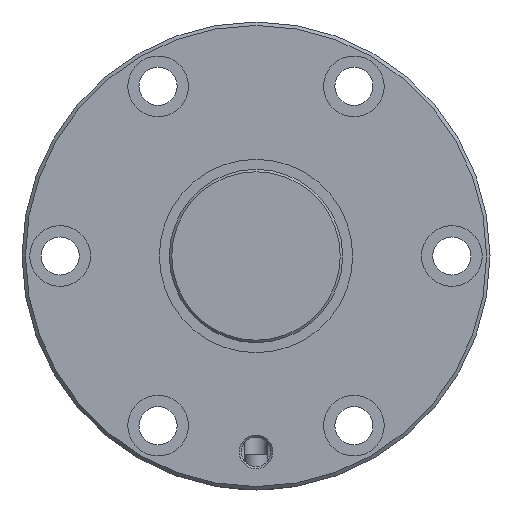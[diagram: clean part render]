
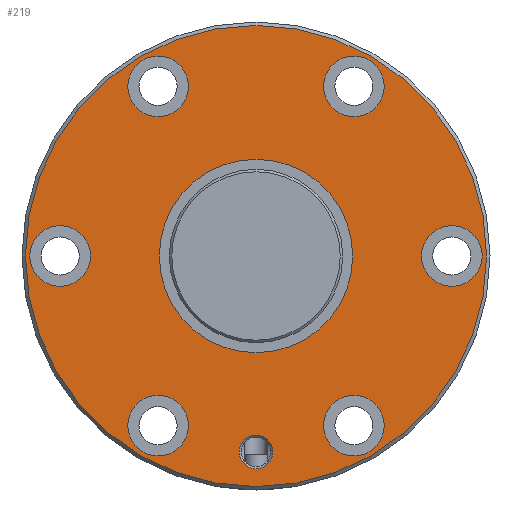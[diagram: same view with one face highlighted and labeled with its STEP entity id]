
A CAD part, left-side view. The second image highlights one B-rep face of the part: STEP entity #219.
In plain terms, the highlighted planar face has unit normal (-1, 0, 0).
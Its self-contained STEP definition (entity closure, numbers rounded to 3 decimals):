
#219 = ADVANCED_FACE( '', ( #390, #391, #392, #393, #394, #395, #396, #397, #398 ), #399, .T. );
#390 = FACE_BOUND( '', #629, .T. );
#391 = FACE_BOUND( '', #630, .T. );
#392 = FACE_BOUND( '', #631, .T. );
#393 = FACE_BOUND( '', #632, .T. );
#394 = FACE_BOUND( '', #633, .T. );
#395 = FACE_BOUND( '', #634, .T. );
#396 = FACE_BOUND( '', #635, .T. );
#397 = FACE_BOUND( '', #636, .T. );
#398 = FACE_OUTER_BOUND( '', #637, .T. );
#399 = PLANE( '', #638 );
#629 = EDGE_LOOP( '', ( #1059 ) );
#630 = EDGE_LOOP( '', ( #1060 ) );
#631 = EDGE_LOOP( '', ( #1061 ) );
#632 = EDGE_LOOP( '', ( #1062 ) );
#633 = EDGE_LOOP( '', ( #1063 ) );
#634 = EDGE_LOOP( '', ( #1064 ) );
#635 = EDGE_LOOP( '', ( #1065 ) );
#636 = EDGE_LOOP( '', ( #1066 ) );
#637 = EDGE_LOOP( '', ( #1067 ) );
#638 = AXIS2_PLACEMENT_3D( '', #1068, #1069, #1070 );
#1059 = ORIENTED_EDGE( '', *, *, #1342, .T. );
#1060 = ORIENTED_EDGE( '', *, *, #1343, .T. );
#1061 = ORIENTED_EDGE( '', *, *, #1265, .T. );
#1062 = ORIENTED_EDGE( '', *, *, #1341, .T. );
#1063 = ORIENTED_EDGE( '', *, *, #1344, .T. );
#1064 = ORIENTED_EDGE( '', *, *, #1345, .T. );
#1065 = ORIENTED_EDGE( '', *, *, #1346, .T. );
#1066 = ORIENTED_EDGE( '', *, *, #1347, .T. );
#1067 = ORIENTED_EDGE( '', *, *, #1348, .F. );
#1068 = CARTESIAN_POINT( '', ( 0., 66.5, 0. ) );
#1069 = DIRECTION( '', ( -1., 0., 0. ) );
#1070 = DIRECTION( '', ( 0., 0., 1. ) );
#1265 = EDGE_CURVE( '', #1419, #1419, #1420, .T. );
#1341 = EDGE_CURVE( '', #1549, #1549, #1550, .T. );
#1342 = EDGE_CURVE( '', #1551, #1551, #1552, .T. );
#1343 = EDGE_CURVE( '', #1553, #1553, #1554, .F. );
#1344 = EDGE_CURVE( '', #1555, #1555, #1556, .T. );
#1345 = EDGE_CURVE( '', #1557, #1557, #1558, .T. );
#1346 = EDGE_CURVE( '', #1559, #1559, #1560, .T. );
#1347 = EDGE_CURVE( '', #1561, #1561, #1562, .T. );
#1348 = EDGE_CURVE( '', #1563, #1563, #1564, .T. );
#1419 = VERTEX_POINT( '', #1804 );
#1420 = CIRCLE( '', #1805, 4.864 );
#1549 = VERTEX_POINT( '', #2218 );
#1550 = CIRCLE( '', #2219, 8.75 );
#1551 = VERTEX_POINT( '', #2220 );
#1552 = CIRCLE( '', #2221, 27.9 );
#1553 = VERTEX_POINT( '', #2222 );
#1554 = CIRCLE( '', #2223, 8.75 );
#1555 = VERTEX_POINT( '', #2224 );
#1556 = CIRCLE( '', #2225, 8.75 );
#1557 = VERTEX_POINT( '', #2226 );
#1558 = CIRCLE( '', #2227, 8.75 );
#1559 = VERTEX_POINT( '', #2228 );
#1560 = CIRCLE( '', #2229, 8.75 );
#1561 = VERTEX_POINT( '', #2230 );
#1562 = CIRCLE( '', #2231, 8.75 );
#1563 = VERTEX_POINT( '', #2232 );
#1564 = CIRCLE( '', #2233, 66.5 );
#1804 = CARTESIAN_POINT( '', ( 0., 0., -61.364 ) );
#1805 = AXIS2_PLACEMENT_3D( '', #2395, #2396, #2397 );
#2218 = CARTESIAN_POINT( '', ( 0., 28.25, 40.18 ) );
#2219 = AXIS2_PLACEMENT_3D( '', #2547, #2548, #2549 );
#2220 = CARTESIAN_POINT( '', ( 0., 0., -27.9 ) );
#2221 = AXIS2_PLACEMENT_3D( '', #2550, #2551, #2552 );
#2222 = CARTESIAN_POINT( '', ( 0., 56.5, 8.75 ) );
#2223 = AXIS2_PLACEMENT_3D( '', #2553, #2554, #2555 );
#2224 = CARTESIAN_POINT( '', ( 0., -28.25, -57.68 ) );
#2225 = AXIS2_PLACEMENT_3D( '', #2556, #2557, #2558 );
#2226 = CARTESIAN_POINT( '', ( 0., -28.25, 40.18 ) );
#2227 = AXIS2_PLACEMENT_3D( '', #2559, #2560, #2561 );
#2228 = CARTESIAN_POINT( '', ( 0., 28.25, -57.68 ) );
#2229 = AXIS2_PLACEMENT_3D( '', #2562, #2563, #2564 );
#2230 = CARTESIAN_POINT( '', ( 0., -56.5, -8.75 ) );
#2231 = AXIS2_PLACEMENT_3D( '', #2565, #2566, #2567 );
#2232 = CARTESIAN_POINT( '', ( 0., 0., -66.5 ) );
#2233 = AXIS2_PLACEMENT_3D( '', #2568, #2569, #2570 );
#2395 = CARTESIAN_POINT( '', ( 0., 0., -56.5 ) );
#2396 = DIRECTION( '', ( 1., 0., 0. ) );
#2397 = DIRECTION( '', ( 0., 0., -1. ) );
#2547 = CARTESIAN_POINT( '', ( 0., 28.25, 48.93 ) );
#2548 = DIRECTION( '', ( 1., 0., 0. ) );
#2549 = DIRECTION( '', ( 0., 0., -1. ) );
#2550 = CARTESIAN_POINT( '', ( 0., 0., 0. ) );
#2551 = DIRECTION( '', ( 1., 0., 0. ) );
#2552 = DIRECTION( '', ( 0., 0., -1. ) );
#2553 = CARTESIAN_POINT( '', ( 0., 56.5, 0. ) );
#2554 = DIRECTION( '', ( -1., 0., 0. ) );
#2555 = DIRECTION( '', ( 0., 0., 1. ) );
#2556 = CARTESIAN_POINT( '', ( 0., -28.25, -48.93 ) );
#2557 = DIRECTION( '', ( 1., 0., 0. ) );
#2558 = DIRECTION( '', ( 0., 0., -1. ) );
#2559 = CARTESIAN_POINT( '', ( 0., -28.25, 48.93 ) );
#2560 = DIRECTION( '', ( 1., 0., 0. ) );
#2561 = DIRECTION( '', ( 0., 0., -1. ) );
#2562 = CARTESIAN_POINT( '', ( 0., 28.25, -48.93 ) );
#2563 = DIRECTION( '', ( 1., 0., 0. ) );
#2564 = DIRECTION( '', ( 0., 0., -1. ) );
#2565 = CARTESIAN_POINT( '', ( 0., -56.5, 0. ) );
#2566 = DIRECTION( '', ( 1., 0., 0. ) );
#2567 = DIRECTION( '', ( 0., 0., -1. ) );
#2568 = CARTESIAN_POINT( '', ( 0., 0., 0. ) );
#2569 = DIRECTION( '', ( 1., 0., 0. ) );
#2570 = DIRECTION( '', ( 0., 0., -1. ) );
